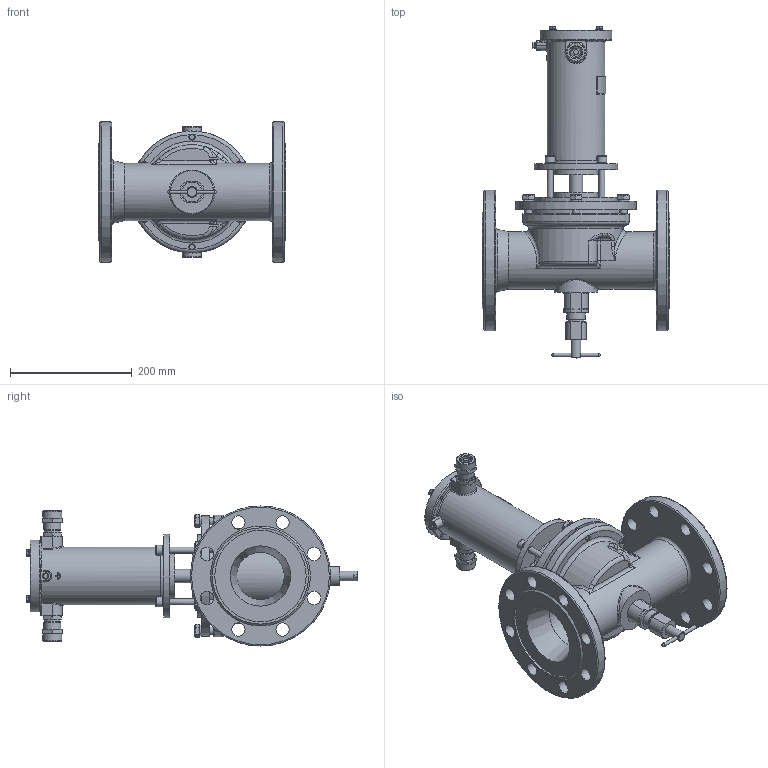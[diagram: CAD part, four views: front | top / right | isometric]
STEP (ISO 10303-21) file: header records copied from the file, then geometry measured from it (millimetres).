
FILE_DESCRIPTION(('STEP AP203'), '1');
FILE_NAME('ÑÅÍÑ DN100PN25-Â-ÍÎ-200Ñ.stp', '2018-09-19T08:53:59', ('Îðëîâ Å.Â.'), ('ÎÎÎ ÍÏÏ Ñåíñîð'), 'ASCON STEP Converter 1.3', 'Kompas 3D', '');
FILE_SCHEMA(('CONFIG_CONTROL_DESIGN','SUPPORT_RESOURCE_SCHEMA'));
Length unit declared in the file: millimetre
Products named in the file (1): 95
Bounding box: 308 x 544.7 x 230 mm (x, y, z)
Volume: 3910470.4 mm3; surface area: 831430.9 mm2
Topology: 3 solids, 24 shells, 2155 faces, 5689 edges, 3671 vertices
Faces by surface type: cylinder 1051, plane 811, cone 163, bspline 56, torus 50, extrusion 16, sphere 8
Full cylindrical faces by diameter (mm): 3.5 x2, 4.134 x1, 4.917 x7, 5 x1, 6 x9, 6.5 x4, 8 x8, 8.2 x1, 8.376 x4, 9 x1, 10 x5, 10.106 x6, 11 x5, 12 x10, 13 x8, 16 x6, 17 x2, 18 x1, 18.632 x2, 20 x3, 22 x19, 22.376 x2, 23 x1, 23.5 x2, 24 x2, 24.5 x2, 26 x4, 26.376 x2, 27.8 x1, 28 x3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
Entity records: 85111 total; most frequent: CARTESIAN_POINT 30795, DIRECTION 11704, ORIENTED_EDGE 11302, EDGE_CURVE 5651, AXIS2_PLACEMENT_3D 4516, VERTEX_POINT 3671, VECTOR 2672, LINE 2656
